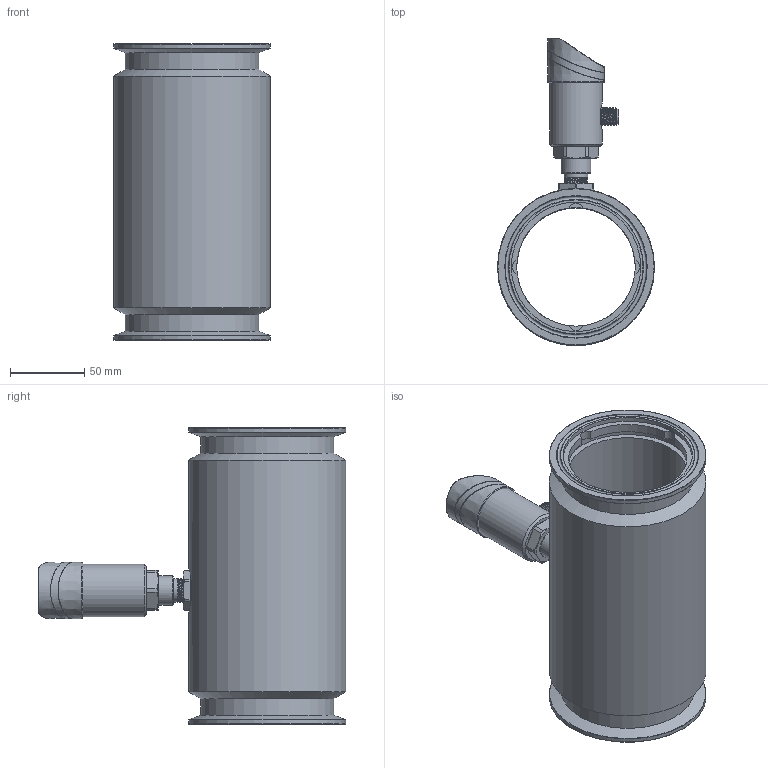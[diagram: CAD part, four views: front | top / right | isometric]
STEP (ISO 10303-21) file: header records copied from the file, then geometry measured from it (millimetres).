
FILE_DESCRIPTION( (''), '2;1');
FILE_NAME( 'QTKE_DN80_tri-clamp.step', '2024-10-15T08:43:04+08:00', (''), (''), '', '', '');
FILE_SCHEMA (('AUTOMOTIVE_DESIGN { 1 0 10303 214 3 1 1 1 }'));
Length unit declared in the file: millimetre
Products named in the file (1): QTKE DN80_tri-clamp
Bounding box: 106 x 207.5 x 200 mm (x, y, z)
Volume: 730952.7 mm3; surface area: 160634.8 mm2
Topology: 5 solids, 6 shells, 757 faces, 1951 edges, 1269 vertices
Faces by surface type: plane 277, cylinder 153, extrusion 141, cone 73, bspline 60, torus 42, sphere 11
Full cylindrical faces by diameter (mm): 1.689 x1, 2.7 x3, 12 x1, 15.9 x1, 16.5 x2, 20 x1, 23 x3, 26 x5, 35.5 x1, 37.001 x1, 80 x1, 86 x2, 87.347 x2, 90 x2, 105.9 x2, 106 x1
Entity records: 33655 total; most frequent: CARTESIAN_POINT 14973, ORIENTED_EDGE 3680, DIRECTION 3007, EDGE_CURVE 1840, VERTEX_POINT 1232, AXIS2_PLACEMENT_3D 1020, VECTOR 967, EDGE_LOOP 900
